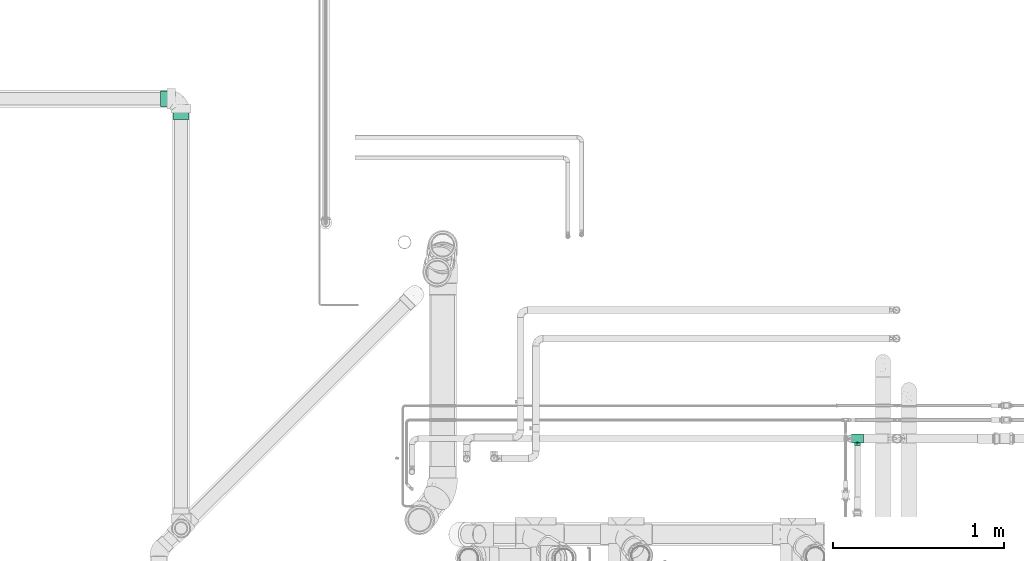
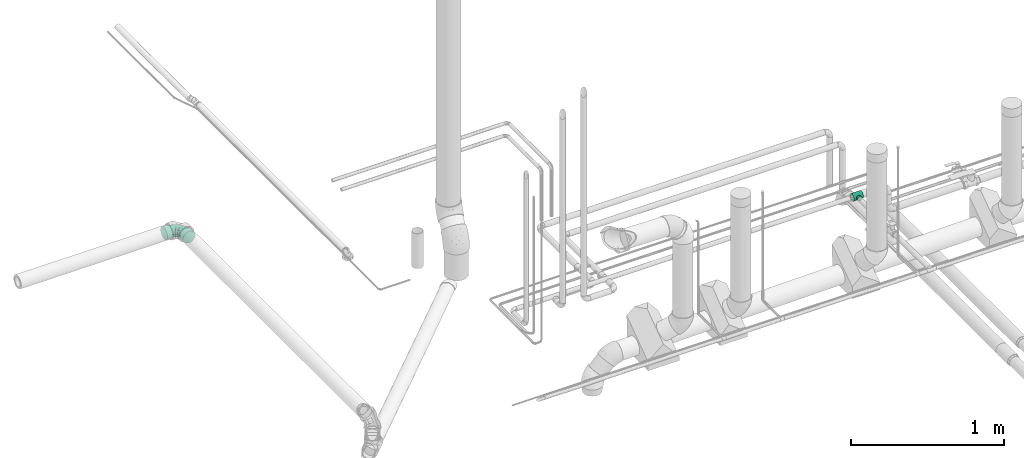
# One storey, part 137 of 156: 2 flow fittings.
"""IFC2X3 building model written with IfcOpenShell, lengths in millimetres."""

from ifc_helpers import new_model, entity, si_unit, converted_unit, derived_unit, direction, frame, origin_with_axes, place, context, subcontext, project, spatial, open_shell, surface_model, source, transform, mapped, type_object, element, save


model = new_model("IFC2X3")

# Units and contexts
model_context = context("Model", 3, precision=0.01, world=frame((0.0, 4.29681676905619e-09, 0.0)), true_north=direction((4.01073788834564e-13, 1.0)))
plan_context = context("Plan", 3, precision=0.01, world=frame((0.0, 4.29681676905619e-09, 0.0)), true_north=direction((4.01073788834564e-13, 1.0)))
body_context = subcontext(model_context, "Body", "Model", "MODEL_VIEW")
ifc_project = project(units=[converted_unit("PLANEANGLEUNIT", "DEGREE", entity("IfcPositiveLengthMeasure", 0.0174532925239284), si_unit("PLANEANGLEUNIT", "RADIAN"), dimensions=[0, 0, 0, 0, 0, 0, 0]), si_unit("AREAUNIT", "SQUARE_METRE"), si_unit("LENGTHUNIT", "METRE", prefix="MILLI"), si_unit("MASSUNIT", "GRAM", prefix="KILO"), si_unit("POWERUNIT", "WATT"), si_unit("PRESSUREUNIT", "PASCAL", prefix="KILO"), si_unit("FORCEUNIT", "NEWTON", prefix="KILO"), si_unit("ELECTRICVOLTAGEUNIT", "VOLT"), si_unit("ELECTRICCURRENTUNIT", "AMPERE"), si_unit("THERMODYNAMICTEMPERATUREUNIT", "DEGREE_CELSIUS"), si_unit("TIMEUNIT", "SECOND"), si_unit("VOLUMEUNIT", "CUBIC_METRE"), derived_unit("LINEARVELOCITYUNIT", [(si_unit("LENGTHUNIT", "METRE"), 1), (si_unit("TIMEUNIT", "SECOND"), -1)]), derived_unit("VOLUMETRICFLOWRATEUNIT", [(si_unit("VOLUMEUNIT", "CUBIC_METRE"), 1), (si_unit("TIMEUNIT", "SECOND"), -1)]), derived_unit("THERMALTRANSMITTANCEUNIT", [(si_unit("POWERUNIT", "WATT"), 1), (si_unit("THERMODYNAMICTEMPERATUREUNIT", "KELVIN"), -1), (si_unit("AREAUNIT", "SQUARE_METRE"), -1)]), derived_unit("SOUNDPRESSUREUNIT", [(si_unit("PRESSUREUNIT", "PASCAL"), 1)])], contexts=[model_context, plan_context])

# Site, building, storey
site_placement = place(None, frame((0.0, -4.29681676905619e-09, 0.0), z_axis=(0.0, 0.0, 1.0), x_axis=(1.0, 0.0, 0.0)))
site = spatial("IfcSite", under=ifc_project, at=site_placement, CompositionType="ELEMENT")
building_placement = place(site_placement, frame((0.0, 4.29681676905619e-09, 0.0), z_axis=(0.0, 0.0, 1.0), x_axis=(1.0, 0.0, 0.0)))
building = spatial("IfcBuilding", under=site, at=building_placement, Name="mc-building", CompositionType="ELEMENT")
storey_placement = place(building_placement, frame((0.0, 0.0, 205200.0), z_axis=(0.0, 0.0, 1.0), x_axis=(1.0, 0.0, 0.0)))
storey = spatial("IfcBuildingStorey", under=building, at=storey_placement, Name="Nivå D + 1,2 m", CompositionType="ELEMENT", Elevation=205200.0)

# Flow fittings
pipe_fitting_type_1 = type_object("IfcPipeFittingType", Name="magi_pipe_tee_centric_90_001", PredefinedType="JUNCTION")
shared_shape_1 = source(origin_with_axes(), body_context, "Body", "SurfaceModel", [
    surface_model("IfcShellBasedSurfaceModel", [(-35.0, 0.0, -27.0), (-35.0, -6.98811, -26.08), (-35.0, 6.98811, -26.08), (-35.0, 13.5, -23.38269), (-35.0, 23.38269, -13.5), (-35.0, -27.0, 0.0), (-35.0, -26.08, 6.98811), (-35.0, 19.09188, -19.09188), (-35.0, -13.5, -23.38269), (-35.0, -19.09188, -19.09188), (-35.0, -26.08, -6.98811), (-35.0, -23.38269, -13.5), (-35.0, 27.0, 0.0), (-35.0, 26.08, -6.98811), (-35.0, 23.38269, 13.5), (-35.0, 26.08, 6.98811), (-35.0, -23.38269, 13.5), (-35.0, 0.0, 27.0), (-35.0, 13.5, 23.38269), (-35.0, 19.09188, 19.09188), (-35.0, 6.98811, 26.08), (-35.0, -19.09188, 19.09188), (-35.0, -6.98811, 26.08), (-35.0, -13.5, 23.38269), (35.0, 6.98811, -26.08), (35.0, -6.98811, -26.08), (35.0, 0.0, -27.0), (35.0, 23.38269, -13.5), (35.0, 13.5, -23.38269), (35.0, -26.08, 6.98811), (35.0, 19.09188, -19.09188), (35.0, -19.09188, -19.09188), (35.0, -13.5, -23.38269), (35.0, -27.0, 0.0), (35.0, -23.38269, -13.5), (35.0, -26.08, -6.98811), (35.0, 26.08, -6.98811), (35.0, 27.0, 0.0), (35.0, 26.08, 6.98811), (35.0, 23.38269, 13.5), (35.0, -23.38269, 13.5), (35.0, 13.5, 23.38269), (35.0, 0.0, 27.0), (35.0, 19.09188, 19.09188), (35.0, 6.98811, 26.08), (35.0, -19.09188, 19.09188), (35.0, -13.5, 23.38269), (35.0, -6.98811, 26.08), (16.392, -26.29539, 6.128), (17.5, -27.0, 0.0), (35.0, -24.73134, 10.24406), (8.8251, -22.37482, 15.11184), (13.34599, -24.51255, 11.31966), (3.12468, -20.79696, 17.21878), (-13.34983, -24.51465, 11.31512), (-35.0, -24.73134, 10.24406), (-17.5, -27.0, 0.0), (-16.39261, -26.29577, 6.12638), (-8.82666, -22.37543, 15.11092), (-3.12994, -20.79775, 17.21782), (8.8251, -22.37482, -15.11184), (-16.39261, -26.29577, -6.12638), (-35.0, -24.73134, -10.24406), (-13.34983, -24.51465, -11.31512), (3.12468, -20.79696, -17.21878), (13.34599, -24.51255, -11.31966), (16.392, -26.29539, -6.128), (35.0, -24.73134, -10.24406), (-3.12994, -20.79775, -17.21782), (-8.82666, -22.37543, -15.11092), (4.52933, -40.5, -16.9037), (-12.37437, -40.5, -12.37437), (0.0, -40.5, -17.5), (12.37437, -40.5, -12.37437), (8.75, -40.5, -15.15544), (15.15544, -40.5, -8.75), (16.9037, -40.5, -4.52933), (16.9037, -40.5, 4.52933), (-16.9037, -40.5, -4.52933), (-8.75, -40.5, -15.15544), (-4.52933, -40.5, -16.9037), (-15.15544, -40.5, -8.75), (8.75, -40.5, 15.15544), (-17.5, -40.5, 0.0), (15.15544, -40.5, 8.75), (4.52933, -40.5, 16.9037), (12.37437, -40.5, 12.37437), (0.0, -40.5, 17.5), (-15.15544, -40.5, 8.75), (-16.9037, -40.5, 4.52933), (-12.37437, -40.5, 12.37437), (-4.52933, -40.5, 16.9037), (-8.75, -40.5, 15.15544), (17.5, -40.5, 0.0), (-16.9463, -26.64789, 3.06319), (16.946, -26.64769, 3.064), (-0.00263, -20.79736, 17.2183), (16.946, -26.64769, -3.064), (-0.00263, -20.79736, -17.2183), (-16.9463, -26.64789, -3.06319)], [open_shell([[[0, 1, 2]], [[3, 2, 4]], [[2, 5, 6]], [[7, 3, 4]], [[2, 6, 4]], [[8, 9, 1]], [[5, 1, 9]], [[10, 5, 11]], [[9, 11, 5]], [[5, 2, 1]], [[12, 13, 4]], [[14, 15, 12]], [[4, 16, 14]], [[17, 18, 14]], [[19, 14, 18]], [[18, 17, 20]], [[16, 21, 14]], [[16, 4, 6]], [[22, 17, 23]], [[21, 23, 17]], [[14, 21, 17]], [[12, 4, 14]], [[24, 25, 26]], [[27, 24, 28]], [[24, 29, 25]], [[27, 28, 30]], [[27, 29, 24]], [[25, 31, 32]], [[31, 25, 33]], [[34, 33, 35]], [[33, 34, 31]], [[33, 25, 29]], [[27, 36, 37]], [[37, 38, 39]], [[39, 40, 27]], [[39, 41, 42]], [[41, 39, 43]], [[44, 42, 41]], [[39, 45, 40]], [[29, 27, 40]], [[46, 42, 47]], [[42, 46, 45]], [[42, 45, 39]], [[39, 27, 37]], [[33, 29, 48]], [[48, 49, 33]], [[50, 48, 29]], [[40, 45, 51]], [[51, 52, 40]], [[53, 51, 45]], [[45, 21, 53]], [[40, 52, 50]], [[54, 16, 55]], [[56, 57, 5]], [[6, 5, 57]], [[54, 55, 57]], [[58, 59, 21]], [[58, 16, 54]], [[16, 58, 21]], [[55, 6, 57]], [[59, 53, 21]], [[48, 50, 52]], [[45, 23, 21]], [[17, 47, 42]], [[22, 46, 47]], [[20, 42, 44]], [[39, 38, 15]], [[19, 41, 43]], [[14, 43, 39]], [[44, 41, 18]], [[12, 38, 37]], [[23, 46, 22]], [[22, 47, 17]], [[20, 17, 42]], [[44, 18, 20]], [[18, 41, 19]], [[14, 19, 43]], [[15, 14, 39]], [[38, 12, 15]], [[46, 23, 45]], [[4, 36, 27]], [[13, 37, 36]], [[7, 27, 30]], [[26, 25, 1]], [[2, 28, 24]], [[0, 24, 26]], [[30, 28, 3]], [[8, 25, 32]], [[12, 37, 13]], [[13, 36, 4]], [[7, 4, 27]], [[30, 3, 7]], [[3, 28, 2]], [[0, 2, 24]], [[1, 0, 26]], [[25, 8, 1]], [[32, 9, 8]], [[31, 34, 60]], [[61, 62, 63]], [[60, 64, 31]], [[34, 65, 60]], [[31, 64, 9]], [[35, 33, 66]], [[65, 67, 66]], [[49, 66, 33]], [[66, 67, 35]], [[68, 69, 9]], [[65, 34, 67]], [[11, 9, 69]], [[69, 63, 11]], [[68, 9, 64]], [[61, 10, 62]], [[61, 5, 10]], [[5, 61, 56]], [[63, 62, 11]], [[31, 9, 32]], [[70, 71, 72]], [[73, 70, 74]], [[73, 75, 76]], [[70, 73, 71]], [[73, 77, 78]], [[72, 79, 80]], [[72, 71, 79]], [[71, 78, 81]], [[73, 78, 71]], [[78, 82, 83]], [[77, 73, 76]], [[78, 77, 84]], [[78, 84, 82]], [[85, 83, 82]], [[82, 84, 86]], [[87, 83, 85]], [[83, 88, 89]], [[83, 90, 88]], [[90, 91, 92]], [[90, 83, 91]], [[91, 83, 87]], [[77, 76, 93]], [[89, 94, 83]], [[54, 88, 90]], [[89, 88, 57]], [[90, 92, 58]], [[95, 93, 49]], [[94, 56, 83]], [[57, 88, 54]], [[58, 91, 59]], [[58, 54, 90]], [[87, 53, 96]], [[58, 92, 91]], [[53, 87, 85]], [[82, 51, 85]], [[89, 57, 94]], [[86, 51, 82]], [[52, 86, 84]], [[86, 52, 51]], [[51, 53, 85]], [[93, 95, 77]], [[48, 52, 84]], [[87, 59, 91]], [[95, 48, 77]], [[48, 84, 77]], [[96, 59, 87]], [[76, 97, 93]], [[65, 75, 73]], [[76, 75, 66]], [[73, 74, 60]], [[97, 49, 93]], [[66, 75, 65]], [[60, 70, 64]], [[60, 65, 73]], [[72, 68, 98]], [[60, 74, 70]], [[99, 83, 56]], [[99, 61, 78]], [[76, 66, 97]], [[80, 68, 72]], [[61, 81, 78]], [[71, 81, 63]], [[72, 64, 70]], [[80, 69, 68]], [[69, 80, 79]], [[79, 71, 69]], [[69, 71, 63]], [[63, 81, 61]], [[83, 99, 78]], [[98, 64, 72]]])]),
])
flow_fitting_1_placement = place(storey_placement, frame((326734.3046, 463284.5375, 4318.0), z_axis=(0.0, 0.0, -1.0), x_axis=(-1.0, 0.0, 0.0)))
element("IfcFlowFitting", 1, at=flow_fitting_1_placement, inside=storey, type_object=pipe_fitting_type_1, Name="magi_pipe_tee_centric_90_001", context=body_context, shape_type="MappedRepresentation", body=[
    mapped(shared_shape_1, transform((0.0, 0.0, 0.0), scale=1.0)),
])
pipe_fitting_type_2 = type_object("IfcPipeFittingType", Name="magi_sewer_bend_001", PredefinedType="BEND")
shared_shape_2 = source(origin_with_axes(), body_context, "Body", "SurfaceModel", [
    surface_model("IfcShellBasedSurfaceModel", [(-120.0002, -44.67407, -11.97038), (-120.0002, -11.97038, -44.67407), (-120.0002, -23.125, -40.05367), (-120.0002, -32.70369, -32.70369), (-120.0002, 0.0, -46.25), (-120.0002, -40.05367, -23.125), (-120.0002, -46.25, 0.0), (-120.0002, 11.97038, -44.67407), (-120.0002, 32.70369, -32.70369), (-120.0002, 23.125, -40.05367), (-120.0002, 44.67407, -11.97038), (-120.0002, 40.05367, -23.125), (-120.0002, -32.70369, 32.70369), (-120.0002, -44.67407, 11.97038), (-120.0002, -40.05367, 23.125), (-120.0002, 32.70369, 32.70369), (-120.0002, -23.125, 40.05367), (-120.0002, -11.97038, 44.67407), (-120.0002, 0.0, 46.25), (-120.0002, 44.67407, 11.97038), (-120.0002, 46.25, 0.0), (-120.0002, 40.05367, 23.125), (-120.0002, 11.97038, 44.67407), (-120.0002, 23.125, 40.05367), (-82.5002, 0.0, 46.25), (-82.5002, -11.97038, 44.67407), (-82.5002, -23.125, 40.05367), (-82.5002, -32.70369, 32.70369), (-82.5002, -40.05367, 23.125), (-82.5002, -44.67407, 11.97038), (-82.5002, 32.70369, 32.70369), (-82.5002, -44.67407, -11.97038), (-82.5002, 11.97038, 44.67407), (-82.5002, 23.125, 40.05367), (-82.5002, 44.67407, 11.97038), (-82.5002, 44.67407, -11.97038), (-82.5002, 46.25, 0.0), (-82.5002, 40.05367, 23.125), (-82.5002, -32.70369, -32.70369), (-82.5002, -40.05367, -23.125), (-82.5002, -23.125, -40.05367), (-82.5002, -11.97038, -44.67407), (-82.5002, 11.97038, -44.67407), (-82.5002, 32.70369, -32.70369), (-82.5002, 40.05367, -23.125), (-82.5002, 23.125, -40.05367), (-82.5002, 0.0, -46.25), (-82.5002, -46.25, 0.0), (-44.67436, 120.00009, 11.97038), (-40.05396, 120.00011, 23.125), (-32.70398, 120.00012, 32.70369), (-32.70398, 120.00012, -32.70369), (-11.97067, 120.00017, 44.67407), (-23.12529, 120.00014, 40.05367), (44.67378, 120.00031, 11.97038), (-11.97067, 120.00017, -44.67407), (-44.67436, 120.00009, -11.97038), (-40.05396, 120.00011, -23.125), (-46.25029, 120.00009, 0.0), (-23.12529, 120.00014, -40.05367), (-0.00029, 120.0002, 46.25), (40.05339, 120.0003, 23.125), (11.97009, 120.00022, 44.67407), (23.12471, 120.00025, 40.05367), (32.7034, 120.00028, 32.70369), (44.67378, 120.00031, -11.97038), (46.24971, 120.00032, 0.0), (23.12471, 120.00025, -40.05367), (11.97009, 120.00022, -44.67407), (-0.00029, 120.0002, -46.25), (40.05339, 120.0003, -23.125), (32.7034, 120.00028, -32.70369), (44.67387, 82.50031, 11.97038), (44.67387, 82.50031, -11.97038), (46.2498, 82.50031, 0.0), (32.70349, 82.50028, 32.70369), (40.05347, 82.5003, 23.125), (23.1248, 82.50025, 40.05367), (11.97018, 82.50022, 44.67407), (-11.97058, 82.50017, -44.67407), (23.1248, 82.50025, -40.05367), (32.70349, 82.50028, -32.70369), (40.05347, 82.5003, -23.125), (11.97018, 82.50022, -44.67407), (-0.0002, 82.5002, -46.25), (-11.97058, 82.50017, 44.67407), (-44.67427, 82.50009, -11.97038), (-32.70389, 82.50012, 32.70369), (-23.1252, 82.50014, 40.05367), (-40.05387, 82.50011, 23.125), (-44.67427, 82.50009, 11.97038), (-32.70389, 82.50012, -32.70369), (-23.1252, 82.50014, -40.05367), (-40.05387, 82.50011, -23.125), (-46.2502, 82.50009, 0.0), (-0.0002, 82.5002, 46.25), (-82.5002, 10.67629, -39.84444), (-82.5002, 0.0, -41.25), (-82.5002, 35.72355, -20.625), (-82.5002, 20.625, -35.72355), (-82.5002, -10.67629, -39.84444), (-82.5002, 29.16816, -29.16816), (-82.5002, 39.84444, -10.67629), (-82.5002, -29.16816, -29.16816), (-82.5002, -35.72355, -20.625), (-82.5002, -20.625, -35.72355), (-82.5002, -39.84444, -10.67629), (-82.5002, -41.25, 0.0), (-82.5002, -39.84444, 10.67629), (-82.5002, 41.25, 0.0), (-82.5002, 35.72355, 20.625), (-82.5002, 39.84444, 10.67629), (-82.5002, 10.67629, 39.84444), (-82.5002, 20.625, 35.72355), (-82.5002, 29.16816, 29.16816), (-82.5002, 0.0, 41.25), (-82.5002, -35.72355, 20.625), (-82.5002, -29.16816, 29.16816), (-82.5002, -10.67629, 39.84444), (-82.5002, -20.625, 35.72355), (-10.67648, 82.50017, -39.84444), (35.72335, 82.50029, -20.625), (-0.0002, 82.5002, -41.25), (-39.84464, 82.50011, -10.67629), (-20.6252, 82.50015, -35.72355), (-29.16835, 82.50013, -29.16816), (-35.72375, 82.50012, -20.625), (35.72335, 82.50029, 20.625), (20.6248, 82.50025, -35.72355), (29.16796, 82.50027, -29.16816), (10.67609, 82.50022, -39.84444), (41.2498, 82.5003, 0.0), (39.84424, 82.5003, -10.67629), (-41.2502, 82.5001, 0.0), (-39.84464, 82.50011, 10.67629), (-35.72375, 82.50012, 20.625), (-29.16835, 82.50013, 29.16816), (-20.6252, 82.50015, 35.72355), (-10.67648, 82.50017, 39.84444), (10.67609, 82.50022, 39.84444), (-0.0002, 82.5002, 41.25), (29.16796, 82.50027, 29.16816), (39.84424, 82.5003, 10.67629), (20.6248, 82.50025, 35.72355), (-55.72833, -36.1776, 12.96429), (-60.49934, -32.04437, 23.15494), (-44.25929, -35.19323, 0.0), (-62.2128, -38.03679, 0.0), (-10.56369, -14.24599, 15.90658), (-2.87117, -11.01903, 8.67505), (2.38266, -2.38266, 17.09194), (-63.01696, -5.4645, 40.54452), (-57.76357, 6.32307, 41.17969), (14.09129, 10.07353, 15.49517), (25.18915, 33.56733, 20.51774), (9.66056, 14.96671, 26.32759), (-41.06837, -0.37016, 39.98169), (-60.34165, -15.56356, 37.09811), (-32.03738, -9.74407, 34.47852), (-52.91529, -23.56531, 30.64349), (-36.95987, -31.61628, 8.48644), (-27.01048, -26.4045, 0.0), (-14.96669, -9.6606, 26.32759), (-7.36852, 7.3685, 33.72536), (-40.32229, 65.83734, 17.92869), (-34.4591, 64.22167, 27.09988), (-15.39805, 71.15366, 38.638), (-5.65363, 61.70435, 41.14868), (-63.58737, 16.17806, 38.96653), (-10.76751, 27.62831, 40.50328), (-20.49642, 7.5674, 38.51917), (-4.2142, 22.28632, 37.90825), (-71.3681, 24.98029, 33.61149), (-14.3364, 40.5653, 41.17599), (-30.55459, 30.55452, 40.24772), (-24.56244, 18.02596, 41.03751), (-65.21498, 43.93737, 9.06947), (-65.85794, 40.31546, 17.92595), (-51.21749, 51.21736, 15.4196), (-64.48359, 34.38693, 27.07106), (23.56518, 52.91534, 30.64349), (-42.78061, 54.68052, 23.34706), (15.56341, 60.34169, 37.09811), (32.04423, 60.49941, 23.15494), (36.17747, 55.72842, 12.96429), (-9.76168, -17.61578, 0.0), (-20.03045, -22.69006, 10.68762), (5.46435, 63.01697, 40.54452), (-45.32874, 17.66933, 40.5118), (-40.47723, 10.10803, 41.23239), (26.40444, 27.01055, 0.0), (31.61619, 36.95995, 8.48644), (22.69002, 20.03051, 10.68762), (38.03664, 62.21289, 0.0), (-43.85366, 27.98925, 38.15383), (-33.56727, -25.18923, 20.51774), (-29.9062, 53.31596, 34.66945), (-25.20097, 69.16967, 33.78262), (-43.42103, 66.54575, 8.84943), (-51.69809, 54.10413, 7.25973), (19.00406, 33.22884, 27.95733), (9.74399, 32.0374, 34.47852), (-46.77662, 61.87506, 0.0), (-38.18709, 43.5607, 33.89517), (-56.80327, 28.00123, 34.73676), (-0.6306, 0.63059, 24.37088), (-23.53909, 42.70084, 39.65389), (-32.86344, 39.93625, 37.53283), (-17.84001, 55.89487, 39.28486), (-43.48188, 46.06761, 29.21925), (-52.9796, 44.32371, 23.00197), (0.37006, 41.06837, 39.98169), (-33.07488, -18.08092, 28.76208), (11.2487, 2.99598, 8.22486), (35.19312, 44.25938, 0.0), (17.61576, 9.76172, 0.0), (-61.87517, 46.77647, 0.0), (3.92704, -3.92703, 0.0), (-60.82934, 35.52513, -27.47602), (-65.82016, 40.32776, -17.931), (-33.69934, -10.41022, -34.60785), (-35.81931, -0.51452, -39.23358), (-16.57376, -0.69021, -33.80006), (-65.30208, 5.2158, -41.11575), (-60.17764, -36.92811, -13.44785), (-51.82974, -30.59013, -22.34245), (-39.36066, -30.93296, -13.83923), (-60.01481, 16.83859, -39.11618), (-45.44344, 9.75141, -41.2411), (-35.52528, 60.82925, -27.47602), (-66.78098, 43.28345, -9.02612), (-25.89098, 64.75914, -34.12385), (-16.83874, 60.01477, -39.11618), (-52.48844, 52.48831, -9.84877), (24.64417, 59.67824, -31.14437), (14.23568, 52.23927, -36.68678), (16.26184, 69.66728, -37.5422), (-8.03669, -14.51012, -10.86344), (-8.15379, -10.69653, -18.79722), (4.43782, -3.50097, -10.88429), (-24.0703, 22.30508, -41.22659), (-39.10516, 24.40788, -40.02223), (-64.75921, 25.89083, -34.12385), (-69.44845, -32.83731, -23.96637), (-40.13083, 46.8593, -31.06964), (-38.12359, 38.1235, -36.21896), (-50.41828, 34.84528, -32.77099), (3.59695, -0.75826, -17.67968), (-59.67818, -24.64432, -31.14437), (30.59001, 51.82981, -22.34245), (36.92797, 60.17773, -13.44785), (30.93287, 39.36073, -13.83923), (-69.66724, -16.26201, -37.5422), (5.20097, 60.77466, -40.49578), (-26.07773, -20.07785, -22.50292), (-30.79956, -16.8269, -28.85628), (-14.95352, -10.1927, -25.79092), (-45.01847, -18.83494, -32.38877), (-52.23923, -14.2358, -36.68678), (-60.77464, -5.20112, -40.49578), (-30.91044, 50.74734, -34.94285), (-43.28361, 66.78087, -9.02612), (-5.21595, 65.30207, -41.11575), (-14.56234, 14.56231, -38.95107), (0.51443, 35.81931, -39.23358), (1.73647, 19.37698, -34.4006), (-40.32792, 65.82006, -17.931), (-49.54268, 49.54256, -20.33206), (32.83714, 69.44854, -23.96637), (23.90562, 33.14174, -22.15345), (13.29725, 15.63838, -22.87991), (16.82682, 30.79961, -28.85628), (8.52549, 35.21577, -36.03592), (-9.75152, 45.44342, -41.2411), (-50.15118, 26.54698, -37.1789), (-24.59648, 40.14181, -39.82272), (-0.39113, 0.39113, -23.90154), (-19.10689, -23.06296, -7.09593), (21.15176, 20.49454, -15.36277), (23.06291, 19.10695, -7.09593), (4.85948, 12.57325, -28.93511), (-20.49449, -21.15181, -15.36277)], [open_shell([[[0, 1, 2]], [[0, 2, 3]], [[1, 0, 4]], [[0, 3, 5]], [[4, 0, 6]], [[7, 8, 9]], [[8, 7, 4]], [[8, 10, 11]], [[10, 8, 4]], [[4, 6, 10]], [[6, 12, 10]], [[13, 14, 12]], [[10, 12, 15]], [[16, 17, 18]], [[16, 18, 12]], [[15, 12, 18]], [[10, 19, 20]], [[10, 21, 19]], [[15, 22, 23]], [[10, 15, 21]], [[18, 22, 15]], [[6, 13, 12]], [[24, 25, 26]], [[24, 26, 27]], [[27, 28, 29]], [[24, 27, 30]], [[27, 31, 30]], [[32, 30, 33]], [[32, 24, 30]], [[34, 35, 36]], [[37, 35, 34]], [[37, 30, 35]], [[27, 29, 31]], [[35, 30, 31]], [[38, 31, 39]], [[40, 41, 31]], [[40, 31, 38]], [[42, 31, 41]], [[35, 43, 44]], [[35, 31, 43]], [[43, 42, 45]], [[31, 42, 43]], [[41, 46, 42]], [[31, 29, 47]], [[35, 10, 36]], [[44, 11, 35]], [[9, 43, 45]], [[44, 43, 8]], [[7, 45, 42]], [[35, 11, 10]], [[10, 20, 36]], [[7, 9, 45]], [[8, 43, 9]], [[8, 11, 44]], [[4, 7, 42]], [[42, 46, 4]], [[46, 41, 1]], [[5, 39, 31]], [[39, 3, 38]], [[0, 31, 47]], [[1, 40, 2]], [[40, 1, 41]], [[40, 38, 2]], [[38, 3, 2]], [[39, 5, 3]], [[0, 5, 31]], [[47, 6, 0]], [[46, 1, 4]], [[29, 13, 47]], [[28, 14, 29]], [[16, 27, 26]], [[28, 27, 12]], [[17, 26, 25]], [[29, 14, 13]], [[13, 6, 47]], [[17, 16, 26]], [[12, 27, 16]], [[12, 14, 28]], [[18, 17, 25]], [[25, 24, 18]], [[30, 23, 33]], [[34, 21, 37]], [[30, 37, 15]], [[19, 34, 36]], [[33, 22, 32]], [[33, 23, 22]], [[22, 18, 32]], [[30, 15, 23]], [[37, 21, 15]], [[19, 21, 34]], [[36, 20, 19]], [[32, 18, 24]], [[48, 49, 50]], [[51, 48, 50]], [[51, 50, 52]], [[52, 50, 53]], [[54, 55, 52]], [[56, 51, 57]], [[56, 58, 48]], [[51, 55, 59]], [[51, 56, 48]], [[55, 51, 52]], [[52, 60, 61]], [[62, 63, 64]], [[62, 64, 61]], [[54, 65, 55]], [[52, 61, 54]], [[65, 54, 66]], [[55, 67, 68]], [[68, 69, 55]], [[67, 70, 71]], [[70, 67, 65]], [[67, 55, 65]], [[62, 61, 60]], [[72, 73, 74]], [[75, 72, 76]], [[75, 77, 78]], [[79, 80, 72]], [[72, 75, 79]], [[73, 81, 82]], [[81, 73, 80]], [[83, 79, 84]], [[80, 73, 72]], [[83, 80, 79]], [[75, 78, 85]], [[75, 85, 86]], [[87, 85, 88]], [[87, 89, 90]], [[87, 90, 85]], [[86, 85, 90]], [[79, 91, 92]], [[91, 79, 86]], [[91, 86, 93]], [[75, 86, 79]], [[90, 94, 86]], [[85, 78, 95]], [[79, 55, 84]], [[92, 59, 79]], [[57, 91, 93]], [[92, 91, 51]], [[56, 93, 86]], [[79, 59, 55]], [[55, 69, 84]], [[56, 57, 93]], [[51, 91, 57]], [[51, 59, 92]], [[58, 56, 86]], [[86, 94, 58]], [[94, 90, 48]], [[53, 88, 85]], [[88, 50, 87]], [[52, 85, 95]], [[48, 89, 49]], [[89, 48, 90]], [[89, 87, 49]], [[87, 50, 49]], [[88, 53, 50]], [[52, 53, 85]], [[95, 60, 52]], [[94, 48, 58]], [[78, 62, 95]], [[77, 63, 78]], [[61, 75, 76]], [[77, 75, 64]], [[54, 76, 72]], [[78, 63, 62]], [[62, 60, 95]], [[54, 61, 76]], [[64, 75, 61]], [[64, 63, 77]], [[66, 54, 72]], [[72, 74, 66]], [[81, 70, 82]], [[83, 67, 80]], [[81, 80, 71]], [[68, 83, 84]], [[82, 65, 73]], [[82, 70, 65]], [[65, 66, 73]], [[81, 71, 70]], [[80, 67, 71]], [[68, 67, 83]], [[84, 69, 68]], [[73, 66, 74]], [[96, 97, 98]], [[99, 96, 98]], [[100, 98, 97]], [[101, 99, 98]], [[102, 98, 100]], [[103, 104, 105]], [[100, 105, 104]], [[104, 106, 100]], [[106, 102, 100]], [[107, 108, 106]], [[109, 102, 106]], [[110, 111, 109]], [[108, 110, 106]], [[112, 113, 114]], [[108, 114, 110]], [[114, 115, 112]], [[116, 117, 108]], [[118, 108, 117]], [[119, 118, 117]], [[118, 114, 108]], [[118, 115, 114]], [[109, 106, 110]], [[120, 121, 122]], [[123, 120, 124]], [[125, 126, 123]], [[125, 123, 124]], [[127, 121, 120]], [[128, 121, 129]], [[121, 128, 130]], [[121, 131, 132]], [[121, 130, 122]], [[121, 127, 131]], [[127, 120, 123]], [[133, 134, 135]], [[123, 135, 127]], [[136, 137, 138]], [[139, 135, 136]], [[140, 136, 138]], [[127, 139, 141]], [[142, 131, 127]], [[141, 139, 143]], [[127, 135, 139]], [[140, 139, 136]], [[123, 133, 135]], [[144, 145, 116]], [[146, 144, 147]], [[148, 149, 150]], [[108, 144, 116]], [[108, 147, 144]], [[115, 151, 152]], [[116, 145, 117]], [[153, 154, 155]], [[156, 157, 158]], [[159, 119, 117]], [[159, 157, 119]], [[160, 146, 161]], [[158, 162, 163]], [[135, 164, 165]], [[138, 166, 167]], [[112, 168, 113]], [[169, 170, 171]], [[113, 172, 114]], [[118, 151, 115]], [[173, 174, 175]], [[176, 177, 178]], [[110, 179, 177]], [[180, 141, 143]], [[109, 111, 176]], [[111, 110, 177]], [[164, 181, 165]], [[179, 110, 114]], [[115, 152, 112]], [[143, 182, 180]], [[114, 172, 179]], [[183, 154, 184]], [[135, 134, 164]], [[185, 186, 161]], [[140, 187, 139]], [[161, 186, 160]], [[140, 138, 167]], [[188, 189, 175]], [[184, 142, 127]], [[127, 141, 183]], [[183, 184, 127]], [[190, 191, 192]], [[184, 193, 142]], [[194, 168, 188]], [[145, 195, 159]], [[165, 196, 197]], [[178, 198, 199]], [[200, 201, 155]], [[202, 198, 133]], [[194, 203, 204]], [[198, 178, 164]], [[182, 143, 139]], [[165, 136, 135]], [[205, 150, 153]], [[206, 196, 207]], [[119, 157, 118]], [[197, 137, 136]], [[166, 138, 137]], [[208, 173, 167]], [[180, 182, 201]], [[192, 191, 154]], [[196, 165, 209]], [[168, 112, 152]], [[204, 209, 179]], [[177, 210, 178]], [[208, 206, 173]], [[187, 167, 211]], [[158, 157, 159]], [[151, 157, 156]], [[212, 195, 162]], [[170, 158, 163]], [[187, 182, 139]], [[201, 182, 211]], [[171, 201, 211]], [[205, 163, 162]], [[155, 201, 163]], [[144, 160, 195]], [[195, 145, 144]], [[159, 117, 145]], [[141, 180, 183]], [[154, 183, 180]], [[188, 168, 152]], [[172, 168, 204]], [[198, 164, 134]], [[178, 210, 181]], [[194, 207, 203]], [[208, 166, 197]], [[210, 179, 209]], [[178, 199, 176]], [[188, 175, 174]], [[211, 167, 173]], [[170, 175, 156]], [[173, 175, 169]], [[167, 187, 140]], [[182, 187, 211]], [[157, 151, 118]], [[152, 151, 156]], [[153, 150, 213]], [[200, 155, 154]], [[212, 162, 158]], [[148, 195, 186]], [[108, 107, 147]], [[193, 184, 214]], [[193, 131, 142]], [[149, 186, 185]], [[186, 149, 148]], [[190, 192, 215]], [[184, 191, 214]], [[213, 150, 149]], [[188, 152, 189]], [[194, 188, 174]], [[207, 194, 174]], [[168, 194, 204]], [[206, 207, 174]], [[203, 207, 196]], [[133, 198, 134]], [[198, 202, 199]], [[202, 216, 199]], [[199, 216, 176]], [[109, 176, 216]], [[111, 177, 176]], [[152, 156, 189]], [[156, 175, 189]], [[213, 217, 215]], [[217, 213, 149]], [[149, 185, 217]], [[215, 192, 213]], [[213, 192, 153]], [[173, 206, 174]], [[196, 206, 208]], [[179, 210, 177]], [[181, 210, 209]], [[165, 181, 209]], [[178, 181, 164]], [[205, 148, 150]], [[195, 148, 162]], [[165, 197, 136]], [[208, 197, 196]], [[196, 209, 203]], [[204, 203, 209]], [[158, 170, 156]], [[171, 170, 163]], [[201, 171, 163]], [[169, 171, 211]], [[173, 169, 211]], [[170, 169, 175]], [[195, 160, 186]], [[146, 160, 144]], [[214, 191, 190]], [[154, 191, 184]], [[154, 153, 192]], [[205, 153, 155]], [[168, 172, 113]], [[179, 172, 204]], [[197, 166, 137]], [[167, 166, 208]], [[154, 180, 200]], [[201, 200, 180]], [[163, 205, 155]], [[148, 205, 162]], [[158, 159, 212]], [[195, 212, 159]], [[218, 98, 219]], [[220, 221, 222]], [[97, 96, 223]], [[224, 225, 226]], [[223, 227, 228]], [[126, 125, 229]], [[216, 230, 109]], [[231, 124, 232]], [[219, 230, 233]], [[234, 235, 236]], [[218, 101, 98]], [[237, 238, 239]], [[240, 228, 241]], [[227, 99, 242]], [[224, 104, 243]], [[244, 245, 246]], [[224, 147, 106]], [[238, 247, 239]], [[248, 103, 105]], [[249, 250, 251]], [[252, 248, 105]], [[130, 253, 122]], [[254, 255, 256]], [[243, 104, 103]], [[225, 248, 257]], [[252, 105, 100]], [[258, 259, 221]], [[250, 121, 132]], [[216, 202, 233]], [[245, 244, 260]], [[133, 123, 261]], [[259, 100, 97]], [[98, 102, 219]], [[120, 262, 232]], [[263, 264, 265]], [[266, 229, 267]], [[120, 122, 262]], [[128, 129, 234]], [[253, 130, 236]], [[123, 126, 266]], [[129, 121, 268]], [[124, 231, 125]], [[228, 227, 241]], [[130, 128, 236]], [[269, 270, 271]], [[265, 264, 272]], [[120, 232, 124]], [[271, 234, 269]], [[264, 273, 253]], [[259, 258, 252]], [[249, 268, 250]], [[104, 224, 106]], [[250, 193, 214]], [[227, 274, 241]], [[99, 101, 242]], [[271, 235, 234]], [[251, 214, 190]], [[227, 96, 99]], [[242, 274, 227]], [[266, 233, 261]], [[245, 275, 241]], [[267, 229, 244]], [[256, 276, 238]], [[161, 277, 185]], [[266, 261, 123]], [[233, 267, 219]], [[268, 234, 129]], [[234, 249, 269]], [[264, 253, 235]], [[262, 253, 273]], [[272, 271, 265]], [[264, 263, 240]], [[250, 132, 193]], [[251, 278, 269]], [[258, 220, 257]], [[243, 248, 225]], [[223, 259, 97]], [[228, 240, 221]], [[228, 221, 259]], [[221, 263, 222]], [[225, 254, 226]], [[132, 131, 193]], [[239, 278, 279]], [[265, 222, 263]], [[101, 218, 242]], [[274, 246, 245]], [[232, 275, 260]], [[229, 125, 231]], [[219, 102, 230]], [[218, 219, 267]], [[229, 266, 126]], [[233, 266, 267]], [[280, 271, 270]], [[276, 256, 222]], [[222, 265, 280]], [[222, 255, 220]], [[147, 224, 146]], [[147, 107, 106]], [[227, 223, 96]], [[259, 223, 228]], [[253, 262, 122]], [[232, 262, 273]], [[260, 275, 245]], [[240, 263, 221]], [[275, 240, 241]], [[264, 240, 273]], [[232, 273, 275]], [[240, 275, 273]], [[237, 217, 185]], [[185, 277, 237]], [[250, 214, 251]], [[279, 251, 190]], [[239, 279, 215]], [[215, 279, 190]], [[251, 279, 278]], [[277, 226, 281]], [[146, 224, 226]], [[226, 277, 161]], [[146, 226, 161]], [[237, 277, 281]], [[238, 237, 281]], [[239, 217, 237]], [[254, 256, 238]], [[238, 276, 247]], [[254, 238, 281]], [[222, 256, 255]], [[226, 254, 281]], [[225, 255, 254]], [[109, 230, 102]], [[216, 233, 230]], [[233, 202, 261]], [[133, 261, 202]], [[270, 247, 276]], [[278, 239, 247]], [[246, 242, 218]], [[245, 241, 274]], [[242, 246, 274]], [[218, 267, 244]], [[244, 246, 218]], [[260, 229, 231]], [[229, 260, 244]], [[260, 231, 232]], [[234, 236, 128]], [[253, 236, 235]], [[250, 268, 121]], [[234, 268, 249]], [[259, 252, 100]], [[248, 252, 258]], [[248, 243, 103]], [[224, 243, 225]], [[251, 269, 249]], [[270, 269, 278]], [[247, 270, 278]], [[270, 276, 280]], [[222, 280, 276]], [[271, 280, 265]], [[264, 235, 272]], [[271, 272, 235]], [[257, 220, 255]], [[221, 220, 258]], [[225, 257, 255]], [[258, 257, 248]], [[239, 215, 217]]])]),
])
flow_fitting_2_placement = place(storey_placement, frame((322778.39808, 465271.95462, 4241.63939), z_axis=(-0.000387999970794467, 0.0, 0.999999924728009), x_axis=(0.0, 1.0, 0.0)))
element("IfcFlowFitting", 2, at=flow_fitting_2_placement, inside=storey, type_object=pipe_fitting_type_2, Name="magi_sewer_bend_001", context=body_context, shape_type="MappedRepresentation", body=[
    mapped(shared_shape_2, transform((0.0, 0.0, 0.0), scale=1.0)),
])

save(model, "model.ifc")
